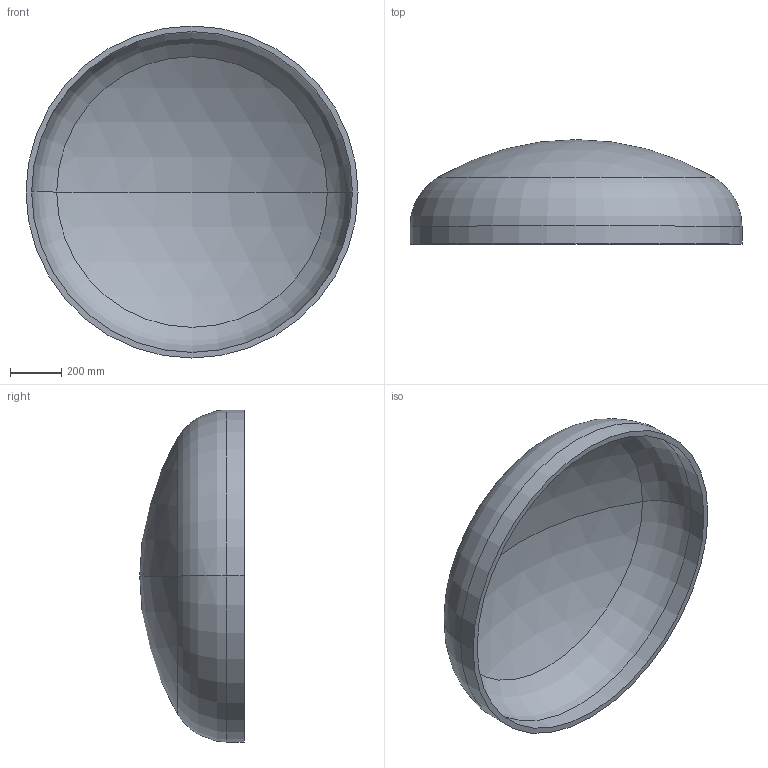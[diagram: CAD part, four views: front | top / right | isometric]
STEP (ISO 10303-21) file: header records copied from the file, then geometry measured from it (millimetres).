
FILE_DESCRIPTION (( 'STEP AP203' ), '1' );
FILE_NAME ('DIN 28013 Korbbogenform_-_Boden DIN 28013 - 1300 x 70 - I - s=22.step', '2016-07-01T09:45:59', ( '' ), ( '' ), 'SwSTEP 2.0', 'SolidWorks 2013', '' );
FILE_SCHEMA (( 'CONFIG_CONTROL_DESIGN' ));
Length unit declared in the file: millimetre
Products named in the file (1): DIN 28013 Korbbogenform_-_Boden DIN 28013 - 1300 x 70 - I - s=22
Bounding box: 1300 x 409.22 x 1300 mm (x, y, z)
Volume: 45725458.2 mm3; surface area: 4246201.2 mm2
Topology: 1 solids, 1 shells, 13 faces, 24 edges, 14 vertices
Faces by surface type: torus 4, cylinder 4, sphere 4, plane 1
Entity records: 407 total; most frequent: DIRECTION 72, CARTESIAN_POINT 52, ORIENTED_EDGE 48, AXIS2_PLACEMENT_3D 34, EDGE_CURVE 24, CIRCLE 20, VERTEX_POINT 14, EDGE_LOOP 14
